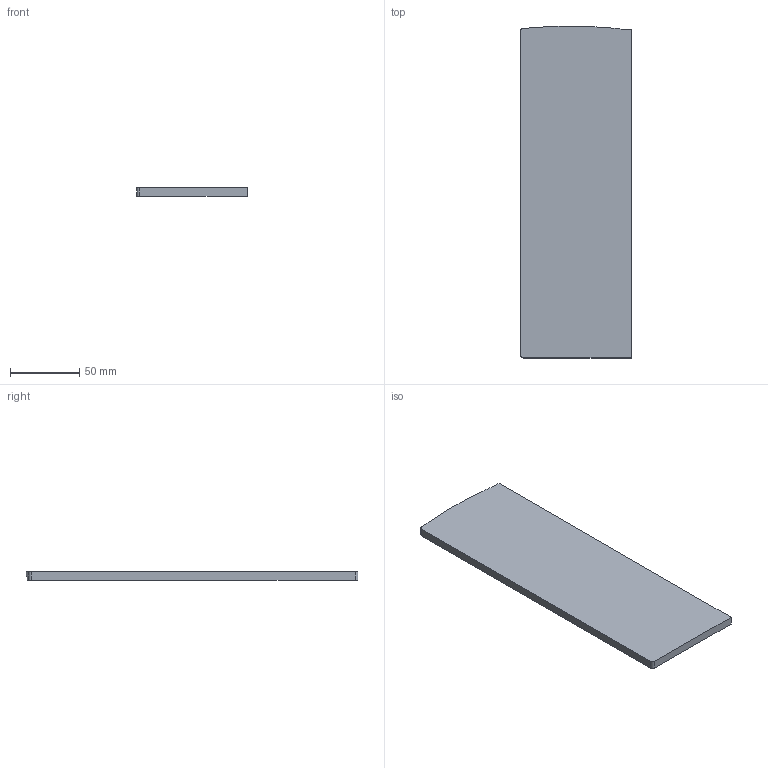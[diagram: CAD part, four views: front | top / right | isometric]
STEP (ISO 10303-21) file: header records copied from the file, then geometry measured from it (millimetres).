
FILE_DESCRIPTION(/* description */ ('TURBOFLEX TL-3621 endcap right with covercap aluminum mill finish'),/* implementation_level */ '2;1');
FILE_NAME(/* name */ '1036214601x.stp',/* time_stamp */ '2025-11-13T10:33:22+01:00',/* author */ ('nethmini'),/* organization */ (''),/* preprocessor_version */ 'ST-DEVELOPER v19.2',/* originating_system */ 'Autodesk Inventor 2024',/* authorisation */ '');
FILE_SCHEMA (('AUTOMOTIVE_DESIGN { 1 0 10303 214 3 1 1 }'));
Length unit declared in the file: millimetre
Products named in the file (1): 10362146010
Bounding box: 80 x 239.83 x 6 mm (x, y, z)
Volume: 39627.2 mm3; surface area: 42305.9 mm2
Topology: 1 solids, 1 shells, 44 faces, 116 edges, 76 vertices
Faces by surface type: plane 29, cylinder 8, bspline 7
Entity records: 1451 total; most frequent: CARTESIAN_POINT 349, ORIENTED_EDGE 232, DIRECTION 194, EDGE_CURVE 116, LINE 86, VECTOR 86, VERTEX_POINT 76, AXIS2_PLACEMENT_3D 54
